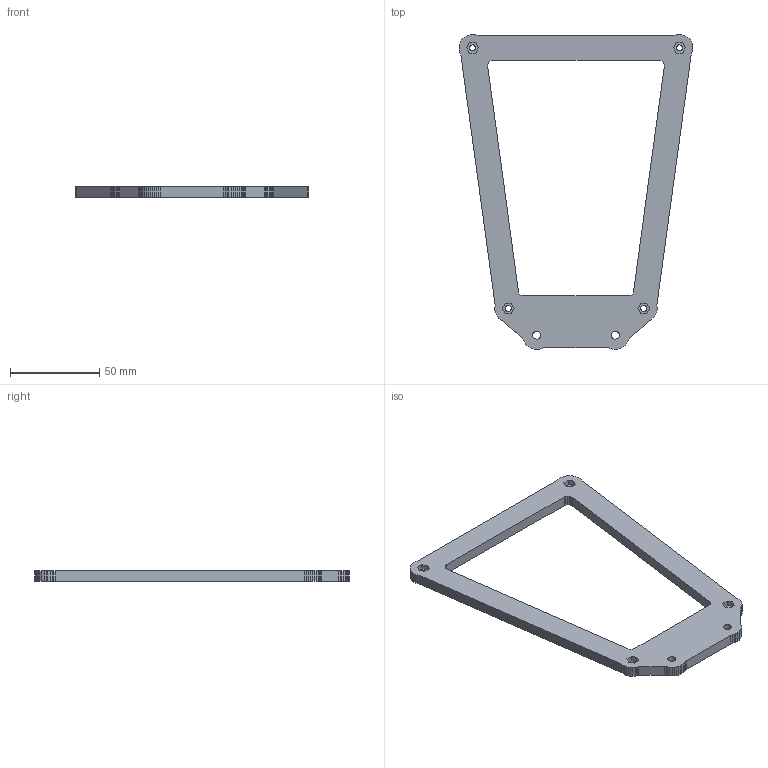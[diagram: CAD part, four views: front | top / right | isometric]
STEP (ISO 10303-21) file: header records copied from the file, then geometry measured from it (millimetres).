
FILE_DESCRIPTION(('Open CASCADE Model'),'2;1');
FILE_NAME('Open CASCADE Shape Model','2026-10-05T13:03:05',('Author'),( 'Open CASCADE'),'Open CASCADE STEP processor 7.9','Open CASCADE 7.9' ,'Unknown');
FILE_SCHEMA(('AUTOMOTIVE_DESIGN { 1 0 10303 214 1 1 1 1 }'));
Length unit declared in the file: millimetre
Products named in the file (1): Open CASCADE STEP translator 7.9 5
Bounding box: 130.98 x 176.48 x 6 mm (x, y, z)
Volume: 46191.5 mm3; surface area: 21848.6 mm2
Topology: 1 solids, 1 shells, 150 faces, 432 edges, 288 vertices
Faces by surface type: plane 144, cylinder 6
Full cylindrical faces by diameter (mm): 3.4 x4, 4.5 x2
Entity records: 10506 total; most frequent: CARTESIAN_POINT 1783, DIRECTION 1602, LINE 1272, VECTOR 1272, ORIENTED_EDGE 864, PCURVE 864, DEFINITIONAL_REPRESENTATION 864, EDGE_CURVE 432
